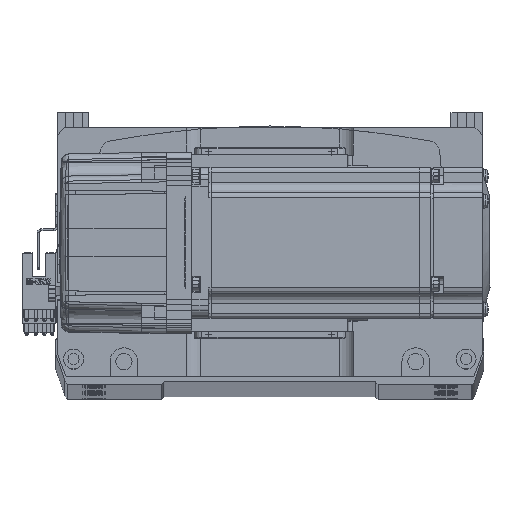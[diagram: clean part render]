
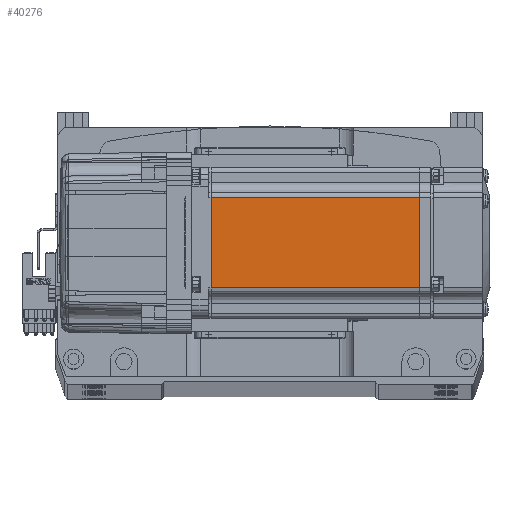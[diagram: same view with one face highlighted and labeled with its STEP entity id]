
A CAD part, top view. The second image highlights one B-rep face of the part: STEP entity #40276.
In plain terms, the highlighted planar face has unit normal (0, 0, 1) as drawn and (0, -1, 0) by its records, which use the part's own axes.
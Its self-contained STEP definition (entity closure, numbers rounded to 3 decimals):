
#1273 = CARTESIAN_POINT ( 'NONE',  ( -90.45, -30., 18. ) ) ;
#2864 = LINE ( 'NONE', #69994, #42206 ) ;
#3469 = CARTESIAN_POINT ( 'NONE',  ( -90.45, -30., -25. ) ) ;
#5390 = ORIENTED_EDGE ( 'NONE', *, *, #8776, .T. ) ;
#6803 = ORIENTED_EDGE ( 'NONE', *, *, #55003, .T. ) ;
#8006 = CARTESIAN_POINT ( 'NONE',  ( -90.45, -30., -18. ) ) ;
#8776 = EDGE_CURVE ( 'NONE', #43429, #21270, #52332, .T. ) ;
#12859 = PLANE ( 'NONE',  #53216 ) ;
#13051 = EDGE_CURVE ( 'NONE', #21270, #69774, #55289, .T. ) ;
#13186 = CARTESIAN_POINT ( 'NONE',  ( -6.5, -30., 18. ) ) ;
#13879 = VECTOR ( 'NONE', #46220, 1000. ) ;
#16238 = FACE_OUTER_BOUND ( 'NONE', #45557, .T. ) ;
#16523 = ORIENTED_EDGE ( 'NONE', *, *, #53885, .T. ) ;
#18438 = DIRECTION ( 'NONE',  ( 0., 0., -1. ) ) ;
#21270 = VERTEX_POINT ( 'NONE', #1273 ) ;
#23178 = ORIENTED_EDGE ( 'NONE', *, *, #13051, .T. ) ;
#24343 = DIRECTION ( 'NONE',  ( 0., -1., 0. ) ) ;
#25889 = DIRECTION ( 'NONE',  ( 1., 0., 0. ) ) ;
#34917 = VECTOR ( 'NONE', #68434, 1000. ) ;
#38132 = CARTESIAN_POINT ( 'NONE',  ( -7.75, -30., 18. ) ) ;
#39350 = LINE ( 'NONE', #68198, #34917 ) ;
#40123 = CARTESIAN_POINT ( 'NONE',  ( -7.75, -30., -18. ) ) ;
#40276 = ADVANCED_FACE ( 'NONE', ( #16238 ), #12859, .T. ) ;
#41434 = CARTESIAN_POINT ( 'NONE',  ( -6.5, -30., -25. ) ) ;
#42206 = VECTOR ( 'NONE', #25889, 1000. ) ;
#43429 = VERTEX_POINT ( 'NONE', #38132 ) ;
#43900 = VECTOR ( 'NONE', #47412, 1000. ) ;
#45557 = EDGE_LOOP ( 'NONE', ( #6803, #5390, #23178, #16523 ) ) ;
#46220 = DIRECTION ( 'NONE',  ( -1., 0., 0. ) ) ;
#47412 = DIRECTION ( 'NONE',  ( 0., 0., -1. ) ) ;
#52332 = LINE ( 'NONE', #13186, #13879 ) ;
#53216 = AXIS2_PLACEMENT_3D ( 'NONE', #41434, #24343, #18438 ) ;
#53885 = EDGE_CURVE ( 'NONE', #69774, #65796, #2864, .T. ) ;
#55003 = EDGE_CURVE ( 'NONE', #65796, #43429, #39350, .T. ) ;
#55289 = LINE ( 'NONE', #3469, #43900 ) ;
#65796 = VERTEX_POINT ( 'NONE', #40123 ) ;
#68198 = CARTESIAN_POINT ( 'NONE',  ( -7.75, -30., -25. ) ) ;
#68434 = DIRECTION ( 'NONE',  ( 0., 0., 1. ) ) ;
#69774 = VERTEX_POINT ( 'NONE', #8006 ) ;
#69994 = CARTESIAN_POINT ( 'NONE',  ( -6.5, -30., -18. ) ) ;
